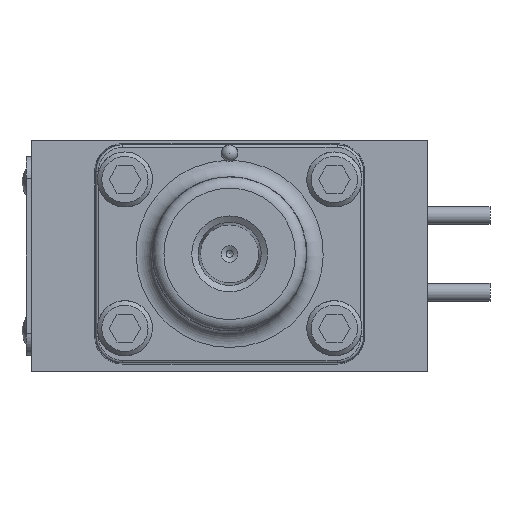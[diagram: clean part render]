
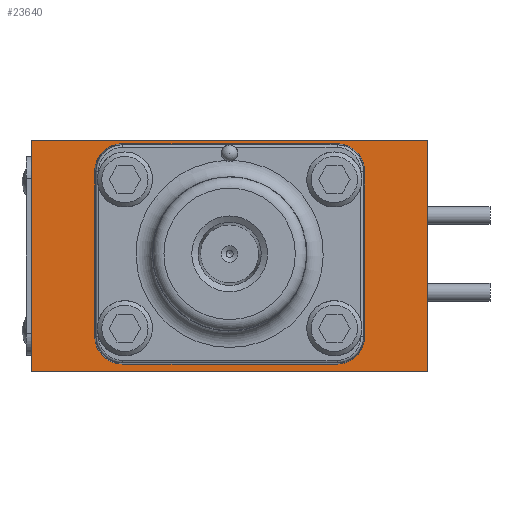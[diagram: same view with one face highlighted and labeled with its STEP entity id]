
A CAD part, left-side view. The second image highlights one B-rep face of the part: STEP entity #23640.
In plain terms, the highlighted planar face has unit normal (-1, 0, 0).
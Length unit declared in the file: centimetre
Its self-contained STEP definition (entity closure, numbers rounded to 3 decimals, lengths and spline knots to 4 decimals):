
#1830=LINE('',#42260,#3228);
#1834=LINE('',#42272,#3232);
#1838=LINE('',#42284,#3236);
#1842=LINE('',#42296,#3240);
#1951=LINE('',#42733,#3349);
#1960=LINE('',#42771,#3358);
#1979=LINE('',#42850,#3377);
#2002=LINE('',#43559,#3400);
#3228=VECTOR('',#31691,3.0759);
#3232=VECTOR('',#31703,2.3622);
#3236=VECTOR('',#31715,3.0759);
#3240=VECTOR('',#31727,2.3622);
#3349=VECTOR('',#32164,5.715);
#3358=VECTOR('',#32195,3.3325);
#3377=VECTOR('',#32284,5.715);
#3400=VECTOR('',#32641,3.3325);
#4450=FACE_BOUND('',#7534,.T.);
#5774=FACE_OUTER_BOUND('',#7533,.T.);
#7533=EDGE_LOOP('',(#19974,#19975,#19976,#19977));
#7534=EDGE_LOOP('',(#19978,#19979,#19980,#19981,#19982,#19983,#19984,#19985));
#8767=CIRCLE('',#25837,0.4064);
#8769=CIRCLE('',#25841,0.4064);
#8771=CIRCLE('',#25845,0.4064);
#8773=CIRCLE('',#25849,0.4064);
#10703=VERTEX_POINT('',#42257);
#10704=VERTEX_POINT('',#42259);
#10706=VERTEX_POINT('',#42265);
#10708=VERTEX_POINT('',#42271);
#10710=VERTEX_POINT('',#42277);
#10712=VERTEX_POINT('',#42283);
#10714=VERTEX_POINT('',#42289);
#10716=VERTEX_POINT('',#42295);
#10836=VERTEX_POINT('',#42729);
#10838=VERTEX_POINT('',#42732);
#10856=VERTEX_POINT('',#42770);
#10881=VERTEX_POINT('',#42849);
#13669=EDGE_CURVE('',#10704,#10703,#1830,.T.);
#13672=EDGE_CURVE('',#10706,#10704,#8767,.T.);
#13675=EDGE_CURVE('',#10708,#10706,#1834,.T.);
#13678=EDGE_CURVE('',#10710,#10708,#8769,.T.);
#13681=EDGE_CURVE('',#10712,#10710,#1838,.T.);
#13684=EDGE_CURVE('',#10714,#10712,#8771,.T.);
#13687=EDGE_CURVE('',#10716,#10714,#1842,.T.);
#13690=EDGE_CURVE('',#10703,#10716,#8773,.T.);
#13874=EDGE_CURVE('',#10838,#10836,#1951,.T.);
#13893=EDGE_CURVE('',#10856,#10838,#1960,.T.);
#13928=EDGE_CURVE('',#10881,#10856,#1979,.T.);
#14055=EDGE_CURVE('',#10836,#10881,#2002,.T.);
#19974=ORIENTED_EDGE('',*,*,#13874,.T.);
#19975=ORIENTED_EDGE('',*,*,#14055,.T.);
#19976=ORIENTED_EDGE('',*,*,#13928,.T.);
#19977=ORIENTED_EDGE('',*,*,#13893,.T.);
#19978=ORIENTED_EDGE('',*,*,#13690,.T.);
#19979=ORIENTED_EDGE('',*,*,#13687,.T.);
#19980=ORIENTED_EDGE('',*,*,#13684,.T.);
#19981=ORIENTED_EDGE('',*,*,#13681,.T.);
#19982=ORIENTED_EDGE('',*,*,#13678,.T.);
#19983=ORIENTED_EDGE('',*,*,#13675,.T.);
#19984=ORIENTED_EDGE('',*,*,#13672,.T.);
#19985=ORIENTED_EDGE('',*,*,#13669,.T.);
#21150=PLANE('',#26223);
#23640=ADVANCED_FACE('',(#5774,#4450),#21150,.T.);
#25837=AXIS2_PLACEMENT_3D('',#42266,#31697,#31698);
#25841=AXIS2_PLACEMENT_3D('',#42278,#31709,#31710);
#25845=AXIS2_PLACEMENT_3D('',#42290,#31721,#31722);
#25849=AXIS2_PLACEMENT_3D('',#42300,#31733,#31734);
#26223=AXIS2_PLACEMENT_3D('',#43558,#32639,#32640);
#31691=DIRECTION('',(0.,1.,0.));
#31697=DIRECTION('center_axis',(1.,0.,0.));
#31698=DIRECTION('ref_axis',(0.,0.,1.));
#31703=DIRECTION('',(0.,0.,-1.));
#31709=DIRECTION('center_axis',(1.,0.,0.));
#31710=DIRECTION('ref_axis',(0.,1.,0.));
#31715=DIRECTION('',(0.,-1.,0.));
#31721=DIRECTION('center_axis',(1.,0.,0.));
#31722=DIRECTION('ref_axis',(0.,0.,-1.));
#31727=DIRECTION('',(0.,0.,1.));
#31733=DIRECTION('center_axis',(1.,0.,0.));
#31734=DIRECTION('ref_axis',(0.,-1.,0.));
#32164=DIRECTION('',(0.,1.,0.));
#32195=DIRECTION('',(0.,0.,1.));
#32284=DIRECTION('',(0.,-1.,0.));
#32639=DIRECTION('center_axis',(-1.,0.,0.));
#32640=DIRECTION('ref_axis',(0.,0.,1.));
#32641=DIRECTION('',(0.,0.,-1.));
#42257=CARTESIAN_POINT('',(-4.7117,1.538,-1.557));
#42259=CARTESIAN_POINT('',(-4.7117,-1.538,-1.557));
#42260=CARTESIAN_POINT('',(-4.7117,-1.538,-1.557));
#42265=CARTESIAN_POINT('',(-4.7117,-1.9444,-1.1506));
#42266=CARTESIAN_POINT('Origin',(-4.7117,-1.538,-1.1506));
#42271=CARTESIAN_POINT('',(-4.7117,-1.9444,1.2116));
#42272=CARTESIAN_POINT('',(-4.7117,-1.9444,1.2116));
#42277=CARTESIAN_POINT('',(-4.7117,-1.538,1.618));
#42278=CARTESIAN_POINT('Origin',(-4.7117,-1.538,1.2116));
#42283=CARTESIAN_POINT('',(-4.7117,1.538,1.618));
#42284=CARTESIAN_POINT('',(-4.7117,1.538,1.618));
#42289=CARTESIAN_POINT('',(-4.7117,1.9444,1.2116));
#42290=CARTESIAN_POINT('Origin',(-4.7117,1.538,1.2116));
#42295=CARTESIAN_POINT('',(-4.7117,1.9444,-1.1506));
#42296=CARTESIAN_POINT('',(-4.7117,1.9444,-1.1506));
#42300=CARTESIAN_POINT('Origin',(-4.7117,1.538,-1.1506));
#42729=CARTESIAN_POINT('',(-4.7117,2.8575,1.6662));
#42732=CARTESIAN_POINT('',(-4.7117,-2.8575,1.6662));
#42733=CARTESIAN_POINT('',(-4.7117,-2.8575,1.6662));
#42770=CARTESIAN_POINT('',(-4.7117,-2.8575,-1.6662));
#42771=CARTESIAN_POINT('',(-4.7117,-2.8575,0.));
#42849=CARTESIAN_POINT('',(-4.7117,2.8575,-1.6662));
#42850=CARTESIAN_POINT('',(-4.7117,-2.8575,-1.6662));
#43558=CARTESIAN_POINT('Origin',(-4.7117,-2.8575,0.));
#43559=CARTESIAN_POINT('',(-4.7117,2.8575,0.));
